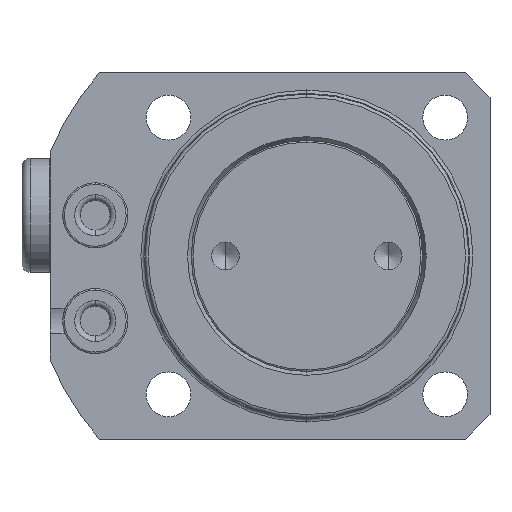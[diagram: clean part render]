
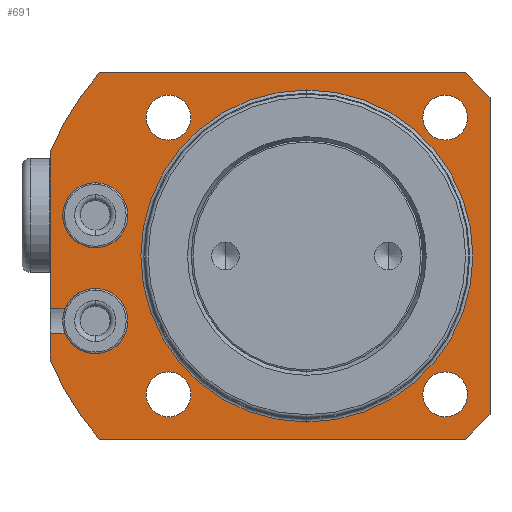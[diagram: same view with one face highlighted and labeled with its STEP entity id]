
A CAD part, front view. The second image highlights one B-rep face of the part: STEP entity #691.
In plain terms, the highlighted planar face has unit normal (0, -1, 0).
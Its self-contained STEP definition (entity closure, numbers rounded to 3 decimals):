
#291=PLANE('',#3994);
#345=FACE_BOUND('',#1165,.T.);
#346=FACE_BOUND('',#1166,.T.);
#347=FACE_BOUND('',#1167,.T.);
#348=FACE_BOUND('',#1168,.T.);
#349=FACE_BOUND('',#1169,.T.);
#350=FACE_BOUND('',#1170,.T.);
#351=FACE_BOUND('',#1171,.T.);
#691=ADVANCED_FACE('',(#345,#346,#347,#348,#349,#350,#351),#291,.T.);
#1165=EDGE_LOOP('',(#2187,#2188,#2189,#2190,#2191,#2192,#2193,#2194,#2195,
#2196,#2197,#2198,#2199,#2200));
#1166=EDGE_LOOP('',(#2201,#2202));
#1167=EDGE_LOOP('',(#2203,#2204));
#1168=EDGE_LOOP('',(#2205,#2206));
#1169=EDGE_LOOP('',(#2207,#2208));
#1170=EDGE_LOOP('',(#2209,#2210));
#1171=EDGE_LOOP('',(#2211,#2212));
#1399=LINE('',#6411,#1560);
#1400=LINE('',#6414,#1561);
#1401=LINE('',#6416,#1562);
#1402=LINE('',#6420,#1563);
#1403=LINE('',#6422,#1564);
#1404=LINE('',#6424,#1565);
#1405=LINE('',#6426,#1566);
#1406=LINE('',#6428,#1567);
#1407=LINE('',#6432,#1568);
#1560=VECTOR('',#4978,1.);
#1561=VECTOR('',#4981,1.);
#1562=VECTOR('',#4982,1.);
#1563=VECTOR('',#4985,1.);
#1564=VECTOR('',#4986,1.);
#1565=VECTOR('',#4987,1.);
#1566=VECTOR('',#4988,1.);
#1567=VECTOR('',#4989,1.);
#1568=VECTOR('',#4992,1.);
#2187=ORIENTED_EDGE('',*,*,#3226,.F.);
#2188=ORIENTED_EDGE('',*,*,#3101,.F.);
#2189=ORIENTED_EDGE('',*,*,#3227,.F.);
#2190=ORIENTED_EDGE('',*,*,#3103,.F.);
#2191=ORIENTED_EDGE('',*,*,#3228,.F.);
#2192=ORIENTED_EDGE('',*,*,#3229,.T.);
#2193=ORIENTED_EDGE('',*,*,#3230,.T.);
#2194=ORIENTED_EDGE('',*,*,#3231,.T.);
#2195=ORIENTED_EDGE('',*,*,#3232,.T.);
#2196=ORIENTED_EDGE('',*,*,#3233,.T.);
#2197=ORIENTED_EDGE('',*,*,#3234,.T.);
#2198=ORIENTED_EDGE('',*,*,#3235,.T.);
#2199=ORIENTED_EDGE('',*,*,#3236,.T.);
#2200=ORIENTED_EDGE('',*,*,#3237,.T.);
#2201=ORIENTED_EDGE('',*,*,#3238,.F.);
#2202=ORIENTED_EDGE('',*,*,#3097,.F.);
#2203=ORIENTED_EDGE('',*,*,#3125,.F.);
#2204=ORIENTED_EDGE('',*,*,#3239,.F.);
#2205=ORIENTED_EDGE('',*,*,#3133,.F.);
#2206=ORIENTED_EDGE('',*,*,#3240,.F.);
#2207=ORIENTED_EDGE('',*,*,#3141,.F.);
#2208=ORIENTED_EDGE('',*,*,#3241,.F.);
#2209=ORIENTED_EDGE('',*,*,#3149,.F.);
#2210=ORIENTED_EDGE('',*,*,#3242,.F.);
#2211=ORIENTED_EDGE('',*,*,#3243,.F.);
#2212=ORIENTED_EDGE('',*,*,#3203,.F.);
#2709=VERTEX_POINT('',#5975);
#2710=VERTEX_POINT('',#5977);
#2713=VERTEX_POINT('',#5984);
#2714=VERTEX_POINT('',#5986);
#2715=VERTEX_POINT('',#5991);
#2716=VERTEX_POINT('',#5993);
#2735=VERTEX_POINT('',#6110);
#2736=VERTEX_POINT('',#6111);
#2743=VERTEX_POINT('',#6137);
#2744=VERTEX_POINT('',#6138);
#2751=VERTEX_POINT('',#6164);
#2752=VERTEX_POINT('',#6165);
#2759=VERTEX_POINT('',#6191);
#2760=VERTEX_POINT('',#6192);
#2801=VERTEX_POINT('',#6330);
#2802=VERTEX_POINT('',#6332);
#2819=VERTEX_POINT('',#6412);
#2820=VERTEX_POINT('',#6415);
#2821=VERTEX_POINT('',#6417);
#2822=VERTEX_POINT('',#6419);
#2823=VERTEX_POINT('',#6421);
#2824=VERTEX_POINT('',#6423);
#2825=VERTEX_POINT('',#6425);
#2826=VERTEX_POINT('',#6427);
#2827=VERTEX_POINT('',#6429);
#2828=VERTEX_POINT('',#6431);
#3097=EDGE_CURVE('',#2709,#2710,#3499,.T.);
#3101=EDGE_CURVE('',#2713,#2714,#3501,.T.);
#3103=EDGE_CURVE('',#2715,#2716,#3502,.T.);
#3125=EDGE_CURVE('',#2735,#2736,#3508,.T.);
#3133=EDGE_CURVE('',#2743,#2744,#3511,.T.);
#3141=EDGE_CURVE('',#2751,#2752,#3514,.T.);
#3149=EDGE_CURVE('',#2759,#2760,#3517,.T.);
#3203=EDGE_CURVE('',#2801,#2802,#3550,.T.);
#3226=EDGE_CURVE('',#2714,#2819,#1399,.T.);
#3227=EDGE_CURVE('',#2716,#2713,#3560,.T.);
#3228=EDGE_CURVE('',#2820,#2715,#1400,.T.);
#3229=EDGE_CURVE('',#2820,#2821,#1401,.T.);
#3230=EDGE_CURVE('',#2821,#2822,#3561,.T.);
#3231=EDGE_CURVE('',#2822,#2823,#1402,.T.);
#3232=EDGE_CURVE('',#2823,#2824,#1403,.T.);
#3233=EDGE_CURVE('',#2824,#2825,#1404,.T.);
#3234=EDGE_CURVE('',#2825,#2826,#1405,.T.);
#3235=EDGE_CURVE('',#2826,#2827,#1406,.T.);
#3236=EDGE_CURVE('',#2827,#2828,#3562,.T.);
#3237=EDGE_CURVE('',#2828,#2819,#1407,.T.);
#3238=EDGE_CURVE('',#2710,#2709,#3563,.T.);
#3239=EDGE_CURVE('',#2736,#2735,#3564,.T.);
#3240=EDGE_CURVE('',#2744,#2743,#3565,.T.);
#3241=EDGE_CURVE('',#2752,#2751,#3566,.T.);
#3242=EDGE_CURVE('',#2760,#2759,#3567,.T.);
#3243=EDGE_CURVE('',#2802,#2801,#3568,.T.);
#3499=CIRCLE('',#3891,4.);
#3501=CIRCLE('',#3894,4.);
#3502=CIRCLE('',#3895,4.);
#3508=CIRCLE('',#3908,2.75);
#3511=CIRCLE('',#3913,2.75);
#3514=CIRCLE('',#3918,2.75);
#3517=CIRCLE('',#3923,2.75);
#3550=CIRCLE('',#3970,20.4);
#3560=CIRCLE('',#3985,4.);
#3561=CIRCLE('',#3986,34.);
#3562=CIRCLE('',#3987,34.);
#3563=CIRCLE('',#3988,4.);
#3564=CIRCLE('',#3989,2.75);
#3565=CIRCLE('',#3990,2.75);
#3566=CIRCLE('',#3991,2.75);
#3567=CIRCLE('',#3992,2.75);
#3568=CIRCLE('',#3993,20.4);
#3891=AXIS2_PLACEMENT_3D('',#5976,#4737,#4738);
#3894=AXIS2_PLACEMENT_3D('',#5985,#4745,#4746);
#3895=AXIS2_PLACEMENT_3D('',#5992,#4747,#4748);
#3908=AXIS2_PLACEMENT_3D('',#6109,#4786,#4787);
#3913=AXIS2_PLACEMENT_3D('',#6136,#4800,#4801);
#3918=AXIS2_PLACEMENT_3D('',#6163,#4814,#4815);
#3923=AXIS2_PLACEMENT_3D('',#6190,#4828,#4829);
#3970=AXIS2_PLACEMENT_3D('',#6331,#4942,#4943);
#3985=AXIS2_PLACEMENT_3D('',#6413,#4979,#4980);
#3986=AXIS2_PLACEMENT_3D('',#6418,#4983,#4984);
#3987=AXIS2_PLACEMENT_3D('',#6430,#4990,#4991);
#3988=AXIS2_PLACEMENT_3D('',#6433,#4993,#4994);
#3989=AXIS2_PLACEMENT_3D('',#6434,#4995,#4996);
#3990=AXIS2_PLACEMENT_3D('',#6435,#4997,#4998);
#3991=AXIS2_PLACEMENT_3D('',#6436,#4999,#5000);
#3992=AXIS2_PLACEMENT_3D('',#6437,#5001,#5002);
#3993=AXIS2_PLACEMENT_3D('',#6438,#5003,#5004);
#3994=AXIS2_PLACEMENT_3D('',#6439,#5005,#5006);
#4737=DIRECTION('',(0.,-1.,0.));
#4738=DIRECTION('',(0.,0.,-1.));
#4745=DIRECTION('',(0.,-1.,0.));
#4746=DIRECTION('',(0.,0.,-1.));
#4747=DIRECTION('',(0.,-1.,0.));
#4748=DIRECTION('',(0.,0.,-1.));
#4786=DIRECTION('',(0.,-1.,0.));
#4787=DIRECTION('',(0.,0.,-1.));
#4800=DIRECTION('',(0.,-1.,0.));
#4801=DIRECTION('',(0.,0.,-1.));
#4814=DIRECTION('',(0.,-1.,0.));
#4815=DIRECTION('',(0.,0.,-1.));
#4828=DIRECTION('',(0.,-1.,0.));
#4829=DIRECTION('',(0.,0.,-1.));
#4942=DIRECTION('',(0.,-1.,0.));
#4943=DIRECTION('',(0.,0.,-1.));
#4978=DIRECTION('',(-1.,0.,0.));
#4979=DIRECTION('',(0.,-1.,0.));
#4980=DIRECTION('',(0.,0.,-1.));
#4981=DIRECTION('',(1.,0.,0.));
#4982=DIRECTION('',(0.,0.,-1.));
#4983=DIRECTION('',(0.,-1.,0.));
#4984=DIRECTION('',(0.,0.,-1.));
#4985=DIRECTION('',(1.,0.,0.));
#4986=DIRECTION('',(0.707,0.,0.707));
#4987=DIRECTION('',(0.,0.,1.));
#4988=DIRECTION('',(-0.707,0.,0.707));
#4989=DIRECTION('',(-1.,0.,0.));
#4990=DIRECTION('',(0.,-1.,0.));
#4991=DIRECTION('',(0.,0.,-1.));
#4992=DIRECTION('',(0.,0.,-1.));
#4993=DIRECTION('',(0.,-1.,0.));
#4994=DIRECTION('',(0.,0.,-1.));
#4995=DIRECTION('',(0.,-1.,0.));
#4996=DIRECTION('',(0.,0.,-1.));
#4997=DIRECTION('',(0.,-1.,0.));
#4998=DIRECTION('',(0.,0.,-1.));
#4999=DIRECTION('',(0.,-1.,0.));
#5000=DIRECTION('',(0.,0.,-1.));
#5001=DIRECTION('',(0.,-1.,0.));
#5002=DIRECTION('',(0.,0.,-1.));
#5003=DIRECTION('',(0.,-1.,0.));
#5004=DIRECTION('',(0.,0.,-1.));
#5005=DIRECTION('',(0.,-1.,0.));
#5006=DIRECTION('',(0.,0.,1.));
#5975=CARTESIAN_POINT('',(-26.,31.886,9.));
#5976=CARTESIAN_POINT('',(-26.,31.886,5.));
#5977=CARTESIAN_POINT('',(-26.,31.886,1.));
#5984=CARTESIAN_POINT('',(-26.,31.886,-4.));
#5985=CARTESIAN_POINT('',(-26.,31.886,-8.));
#5986=CARTESIAN_POINT('',(-29.7,31.886,-6.48));
#5991=CARTESIAN_POINT('',(-29.7,31.886,-9.52));
#5992=CARTESIAN_POINT('',(-26.,31.886,-8.));
#5993=CARTESIAN_POINT('',(-26.,31.886,-12.));
#6109=CARTESIAN_POINT('',(-17.,31.886,-17.));
#6110=CARTESIAN_POINT('',(-17.,31.886,-14.25));
#6111=CARTESIAN_POINT('',(-17.,31.886,-19.75));
#6136=CARTESIAN_POINT('',(17.,31.886,-17.));
#6137=CARTESIAN_POINT('',(17.,31.886,-14.25));
#6138=CARTESIAN_POINT('',(17.,31.886,-19.75));
#6163=CARTESIAN_POINT('',(17.,31.886,17.));
#6164=CARTESIAN_POINT('',(17.,31.886,19.75));
#6165=CARTESIAN_POINT('',(17.,31.886,14.25));
#6190=CARTESIAN_POINT('',(-17.,31.886,17.));
#6191=CARTESIAN_POINT('',(-17.,31.886,19.75));
#6192=CARTESIAN_POINT('',(-17.,31.886,14.25));
#6330=CARTESIAN_POINT('',(0.,31.886,20.4));
#6331=CARTESIAN_POINT('',(0.,31.886,0.));
#6332=CARTESIAN_POINT('',(0.,31.886,-20.4));
#6411=CARTESIAN_POINT('',(-26.5,31.886,-6.48));
#6412=CARTESIAN_POINT('',(-31.5,31.886,-6.48));
#6413=CARTESIAN_POINT('',(-26.,31.886,-8.));
#6414=CARTESIAN_POINT('',(-26.5,31.886,-9.52));
#6415=CARTESIAN_POINT('',(-31.5,31.886,-9.52));
#6416=CARTESIAN_POINT('',(-31.5,31.886,0.));
#6417=CARTESIAN_POINT('',(-31.5,31.886,-12.796));
#6418=CARTESIAN_POINT('',(0.,31.886,0.));
#6419=CARTESIAN_POINT('',(-25.49,31.886,-22.5));
#6420=CARTESIAN_POINT('',(20.4,31.886,-22.5));
#6421=CARTESIAN_POINT('',(19.5,31.886,-22.5));
#6422=CARTESIAN_POINT('',(31.2,31.886,-10.8));
#6423=CARTESIAN_POINT('',(22.5,31.886,-19.5));
#6424=CARTESIAN_POINT('',(22.5,31.886,0.));
#6425=CARTESIAN_POINT('',(22.5,31.886,19.5));
#6426=CARTESIAN_POINT('',(31.2,31.886,10.8));
#6427=CARTESIAN_POINT('',(19.5,31.886,22.5));
#6428=CARTESIAN_POINT('',(20.4,31.886,22.5));
#6429=CARTESIAN_POINT('',(-25.49,31.886,22.5));
#6430=CARTESIAN_POINT('',(0.,31.886,0.));
#6431=CARTESIAN_POINT('',(-31.5,31.886,12.796));
#6432=CARTESIAN_POINT('',(-31.5,31.886,0.));
#6433=CARTESIAN_POINT('',(-26.,31.886,5.));
#6434=CARTESIAN_POINT('',(-17.,31.886,-17.));
#6435=CARTESIAN_POINT('',(17.,31.886,-17.));
#6436=CARTESIAN_POINT('',(17.,31.886,17.));
#6437=CARTESIAN_POINT('',(-17.,31.886,17.));
#6438=CARTESIAN_POINT('',(0.,31.886,0.));
#6439=CARTESIAN_POINT('',(20.4,31.886,0.));
